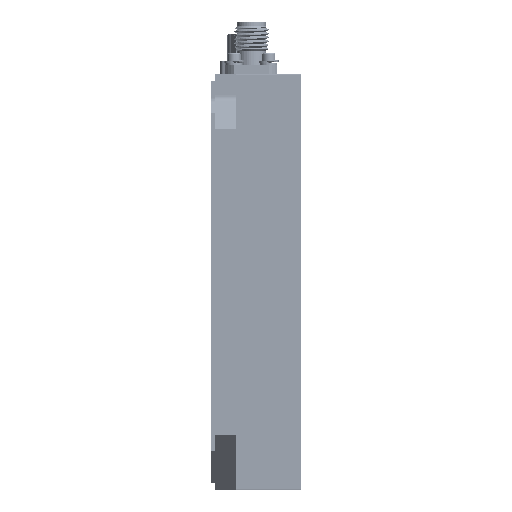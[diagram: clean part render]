
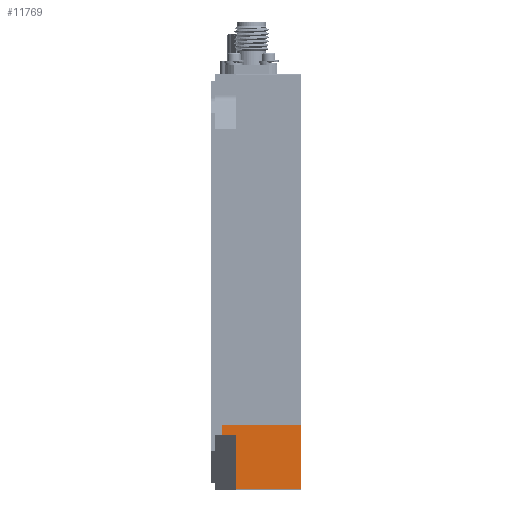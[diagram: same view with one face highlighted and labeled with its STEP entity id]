
A CAD part, left-side view. The second image highlights one B-rep face of the part: STEP entity #11769.
In plain terms, the highlighted planar face has unit normal (-1, 0, 0).
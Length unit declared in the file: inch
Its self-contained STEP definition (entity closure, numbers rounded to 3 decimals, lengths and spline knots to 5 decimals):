
#88 = DIRECTION ( 'NONE',  ( 0., 0., 1. ) ) ;
#498 = LINE ( 'NONE', #13090, #27828 ) ;
#2769 = DIRECTION ( 'NONE',  ( 0., -1., 0. ) ) ;
#4945 = EDGE_CURVE ( 'NONE', #8699, #64354, #41043, .T. ) ;
#6902 = DIRECTION ( 'NONE',  ( 0., 0., -1. ) ) ;
#7306 = FACE_OUTER_BOUND ( 'NONE', #61678, .T. ) ;
#7359 = CARTESIAN_POINT ( 'NONE',  ( -1., 0.57, -1.1 ) ) ;
#8699 = VERTEX_POINT ( 'NONE', #70557 ) ;
#11769 = ADVANCED_FACE ( 'NONE', ( #7306 ), #20753, .F. ) ;
#13090 = CARTESIAN_POINT ( 'NONE',  ( -1., 0., -1.5 ) ) ;
#14957 = LINE ( 'NONE', #48214, #21818 ) ;
#15389 = LINE ( 'NONE', #73816, #65296 ) ;
#15414 = ORIENTED_EDGE ( 'NONE', *, *, #59725, .F. ) ;
#15818 = DIRECTION ( 'NONE',  ( 0., 0., 1. ) ) ;
#16204 = DIRECTION ( 'NONE',  ( 0., -1., 0. ) ) ;
#17103 = ORIENTED_EDGE ( 'NONE', *, *, #4945, .T. ) ;
#20753 = PLANE ( 'NONE',  #60603 ) ;
#21739 = EDGE_CURVE ( 'NONE', #63486, #40028, #45365, .T. ) ;
#21818 = VECTOR ( 'NONE', #16204, 39.37008 ) ;
#21893 = ORIENTED_EDGE ( 'NONE', *, *, #21739, .T. ) ;
#25838 = CARTESIAN_POINT ( 'NONE',  ( -1., 0.52, -1.5 ) ) ;
#27828 = VECTOR ( 'NONE', #88, 39.37008 ) ;
#28372 = LINE ( 'NONE', #7359, #55770 ) ;
#29837 = VECTOR ( 'NONE', #44512, 39.37008 ) ;
#34701 = CARTESIAN_POINT ( 'NONE',  ( -1., 0.52, -1.495 ) ) ;
#35123 = EDGE_CURVE ( 'NONE', #64354, #63486, #498, .T. ) ;
#35784 = ORIENTED_EDGE ( 'NONE', *, *, #73518, .T. ) ;
#40028 = VERTEX_POINT ( 'NONE', #79383 ) ;
#41043 = LINE ( 'NONE', #34701, #42333 ) ;
#42333 = VECTOR ( 'NONE', #2769, 39.37008 ) ;
#44512 = DIRECTION ( 'NONE',  ( 0., 1., 0. ) ) ;
#45365 = LINE ( 'NONE', #64331, #29837 ) ;
#46881 = DIRECTION ( 'NONE',  ( 0., 0., 1. ) ) ;
#48214 = CARTESIAN_POINT ( 'NONE',  ( -1., 0.57, -1.1 ) ) ;
#52482 = ORIENTED_EDGE ( 'NONE', *, *, #69897, .F. ) ;
#54438 = CARTESIAN_POINT ( 'NONE',  ( -1., 0., -1.495 ) ) ;
#54848 = CARTESIAN_POINT ( 'NONE',  ( -1., 0.57, -1.1 ) ) ;
#55770 = VECTOR ( 'NONE', #46881, 39.37008 ) ;
#58374 = CARTESIAN_POINT ( 'NONE',  ( -1., 0., -1.028 ) ) ;
#59725 = EDGE_CURVE ( 'NONE', #8699, #69433, #15389, .T. ) ;
#60603 = AXIS2_PLACEMENT_3D ( 'NONE', #25838, #78287, #6902 ) ;
#61320 = VERTEX_POINT ( 'NONE', #54848 ) ;
#61678 = EDGE_LOOP ( 'NONE', ( #15414, #17103, #80030, #21893, #52482, #35784 ) ) ;
#63486 = VERTEX_POINT ( 'NONE', #58374 ) ;
#64331 = CARTESIAN_POINT ( 'NONE',  ( -1., 0., -1.028 ) ) ;
#64354 = VERTEX_POINT ( 'NONE', #54438 ) ;
#65296 = VECTOR ( 'NONE', #15818, 39.37008 ) ;
#69433 = VERTEX_POINT ( 'NONE', #79268 ) ;
#69897 = EDGE_CURVE ( 'NONE', #61320, #40028, #28372, .T. ) ;
#70557 = CARTESIAN_POINT ( 'NONE',  ( -1., 0.47, -1.495 ) ) ;
#73518 = EDGE_CURVE ( 'NONE', #61320, #69433, #14957, .T. ) ;
#73816 = CARTESIAN_POINT ( 'NONE',  ( -1., 0.47, -1.5 ) ) ;
#78287 = DIRECTION ( 'NONE',  ( 1., 0., 0. ) ) ;
#79268 = CARTESIAN_POINT ( 'NONE',  ( -1., 0.47, -1.1 ) ) ;
#79383 = CARTESIAN_POINT ( 'NONE',  ( -1., 0.57, -1.028 ) ) ;
#80030 = ORIENTED_EDGE ( 'NONE', *, *, #35123, .T. ) ;
